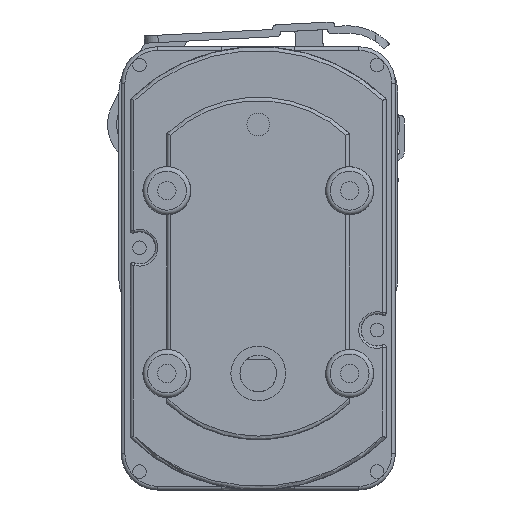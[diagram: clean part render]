
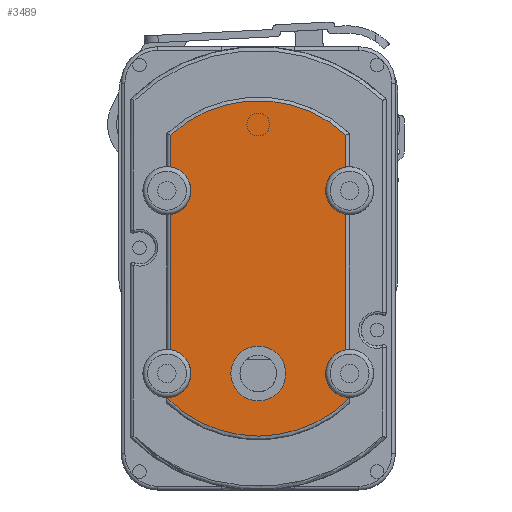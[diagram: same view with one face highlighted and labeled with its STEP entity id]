
A CAD part, front view. The second image highlights one B-rep face of the part: STEP entity #3489.
In plain terms, the highlighted planar face has unit normal (0, -1, 0).
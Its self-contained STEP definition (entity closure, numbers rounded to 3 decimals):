
#3331=CARTESIAN_POINT('',(-41.2,-4.9,26.689));
#3332=VERTEX_POINT('',#3331);
#3346=CARTESIAN_POINT('',(-41.2,-4.9,56.311));
#3347=VERTEX_POINT('',#3346);
#3348=CARTESIAN_POINT('',(-41.2,-4.9,26.689));
#3349=DIRECTION('',(0.0,0.0,1.0));
#3350=VECTOR('',#3349,29.623);
#3351=LINE('',#3348,#3350);
#3352=EDGE_CURVE('',#3332,#3347,#3351,.T.);
#3378=CARTESIAN_POINT('',(-22.,-4.9,44.5));
#3379=DIRECTION('',(0.0,1.0,0.0));
#3380=DIRECTION('',(0.0,0.0,1.0));
#3381=AXIS2_PLACEMENT_3D('',#3378,#3379,#3380);
#3382=PLANE('',#3381);
#3383=ORIENTED_EDGE('',*,*,#3352,.F.);
#3384=CARTESIAN_POINT('',(-42.,-4.9,16.25));
#3385=VERTEX_POINT('',#3384);
#3386=CARTESIAN_POINT('',(-42.,-4.9,21.5));
#3387=DIRECTION('',(0.0,1.0,0.0));
#3388=DIRECTION('',(-1.0,0.0,0.0));
#3389=AXIS2_PLACEMENT_3D('',#3386,#3387,#3388);
#3390=CIRCLE('',#3389,5.25);
#3391=EDGE_CURVE('',#3332,#3385,#3390,.T.);
#3392=ORIENTED_EDGE('',*,*,#3391,.T.);
#3393=CARTESIAN_POINT('',(-42.,-4.9,16.119));
#3394=VERTEX_POINT('',#3393);
#3395=CARTESIAN_POINT('',(-42.,-4.9,16.119));
#3396=DIRECTION('',(0.0,0.0,1.0));
#3397=VECTOR('',#3396,0.131);
#3398=LINE('',#3395,#3397);
#3399=EDGE_CURVE('',#3394,#3385,#3398,.T.);
#3400=ORIENTED_EDGE('',*,*,#3399,.F.);
#3401=CARTESIAN_POINT('',(-2.,-4.9,16.119));
#3402=VERTEX_POINT('',#3401);
#3403=CARTESIAN_POINT('',(-22.,-4.9,36.0));
#3404=DIRECTION('',(0.0,1.0,0.0));
#3405=DIRECTION('',(0.0,0.0,-1.0));
#3406=AXIS2_PLACEMENT_3D('',#3403,#3404,#3405);
#3407=CIRCLE('',#3406,28.2);
#3408=EDGE_CURVE('',#3402,#3394,#3407,.T.);
#3409=ORIENTED_EDGE('',*,*,#3408,.F.);
#3410=CARTESIAN_POINT('',(-2.,-4.9,16.25));
#3411=VERTEX_POINT('',#3410);
#3412=CARTESIAN_POINT('',(-2.,-4.9,16.25));
#3413=DIRECTION('',(0.0,0.0,-1.0));
#3414=VECTOR('',#3413,0.131);
#3415=LINE('',#3412,#3414);
#3416=EDGE_CURVE('',#3411,#3402,#3415,.T.);
#3417=ORIENTED_EDGE('',*,*,#3416,.F.);
#3418=CARTESIAN_POINT('',(-2.8,-4.9,26.689));
#3419=VERTEX_POINT('',#3418);
#3420=CARTESIAN_POINT('',(-2.,-4.9,21.5));
#3421=DIRECTION('',(0.0,1.0,0.0));
#3422=DIRECTION('',(-1.0,0.0,0.0));
#3423=AXIS2_PLACEMENT_3D('',#3420,#3421,#3422);
#3424=CIRCLE('',#3423,5.25);
#3425=EDGE_CURVE('',#3411,#3419,#3424,.T.);
#3426=ORIENTED_EDGE('',*,*,#3425,.T.);
#3427=CARTESIAN_POINT('',(-2.8,-4.9,56.311));
#3428=VERTEX_POINT('',#3427);
#3429=CARTESIAN_POINT('',(-2.8,-4.9,56.311));
#3430=DIRECTION('',(0.0,0.0,-1.0));
#3431=VECTOR('',#3430,29.623);
#3432=LINE('',#3429,#3431);
#3433=EDGE_CURVE('',#3428,#3419,#3432,.T.);
#3434=ORIENTED_EDGE('',*,*,#3433,.F.);
#3435=CARTESIAN_POINT('',(-2.8,-4.9,66.689));
#3436=VERTEX_POINT('',#3435);
#3437=CARTESIAN_POINT('',(-2.,-4.9,61.5));
#3438=DIRECTION('',(0.0,1.0,0.0));
#3439=DIRECTION('',(-1.0,0.0,0.0));
#3440=AXIS2_PLACEMENT_3D('',#3437,#3438,#3439);
#3441=CIRCLE('',#3440,5.25);
#3442=EDGE_CURVE('',#3428,#3436,#3441,.T.);
#3443=ORIENTED_EDGE('',*,*,#3442,.T.);
#3444=CARTESIAN_POINT('',(-2.8,-4.9,73.654));
#3445=VERTEX_POINT('',#3444);
#3446=CARTESIAN_POINT('',(-2.8,-4.9,73.654));
#3447=DIRECTION('',(0.0,0.0,-1.0));
#3448=VECTOR('',#3447,6.966);
#3449=LINE('',#3446,#3448);
#3450=EDGE_CURVE('',#3445,#3436,#3449,.T.);
#3451=ORIENTED_EDGE('',*,*,#3450,.F.);
#3452=CARTESIAN_POINT('',(-41.2,-4.9,73.654));
#3453=VERTEX_POINT('',#3452);
#3454=CARTESIAN_POINT('',(-22.,-4.9,53.));
#3455=DIRECTION('',(0.0,1.0,0.0));
#3456=DIRECTION('',(0.0,0.0,1.0));
#3457=AXIS2_PLACEMENT_3D('',#3454,#3455,#3456);
#3458=CIRCLE('',#3457,28.2);
#3459=EDGE_CURVE('',#3453,#3445,#3458,.T.);
#3460=ORIENTED_EDGE('',*,*,#3459,.F.);
#3461=CARTESIAN_POINT('',(-41.2,-4.9,66.689));
#3462=VERTEX_POINT('',#3461);
#3463=CARTESIAN_POINT('',(-41.2,-4.9,66.689));
#3464=DIRECTION('',(0.0,0.0,1.0));
#3465=VECTOR('',#3464,6.966);
#3466=LINE('',#3463,#3465);
#3467=EDGE_CURVE('',#3462,#3453,#3466,.T.);
#3468=ORIENTED_EDGE('',*,*,#3467,.F.);
#3469=CARTESIAN_POINT('',(-42.,-4.9,61.5));
#3470=DIRECTION('',(0.0,1.0,0.0));
#3471=DIRECTION('',(-1.0,0.0,0.0));
#3472=AXIS2_PLACEMENT_3D('',#3469,#3470,#3471);
#3473=CIRCLE('',#3472,5.25);
#3474=EDGE_CURVE('',#3462,#3347,#3473,.T.);
#3475=ORIENTED_EDGE('',*,*,#3474,.T.);
#3476=EDGE_LOOP('',(#3383,#3392,#3400,#3409,#3417,#3426,#3434,#3443,#3451,#3460,#3468,#3475));
#3477=FACE_OUTER_BOUND('',#3476,.T.);
#3478=CARTESIAN_POINT('',(-16.,-4.9,21.5));
#3479=VERTEX_POINT('',#3478);
#3480=CARTESIAN_POINT('',(-22.,-4.9,21.5));
#3481=DIRECTION('',(0.0,1.0,0.0));
#3482=DIRECTION('',(-1.0,0.0,0.0));
#3483=AXIS2_PLACEMENT_3D('',#3480,#3481,#3482);
#3484=CIRCLE('',#3483,6.);
#3485=EDGE_CURVE('',#3479,#3479,#3484,.T.);
#3486=ORIENTED_EDGE('',*,*,#3485,.T.);
#3487=EDGE_LOOP('',(#3486));
#3488=FACE_BOUND('',#3487,.T.);
#3489=ADVANCED_FACE('',(#3477,#3488),#3382,.F.);
